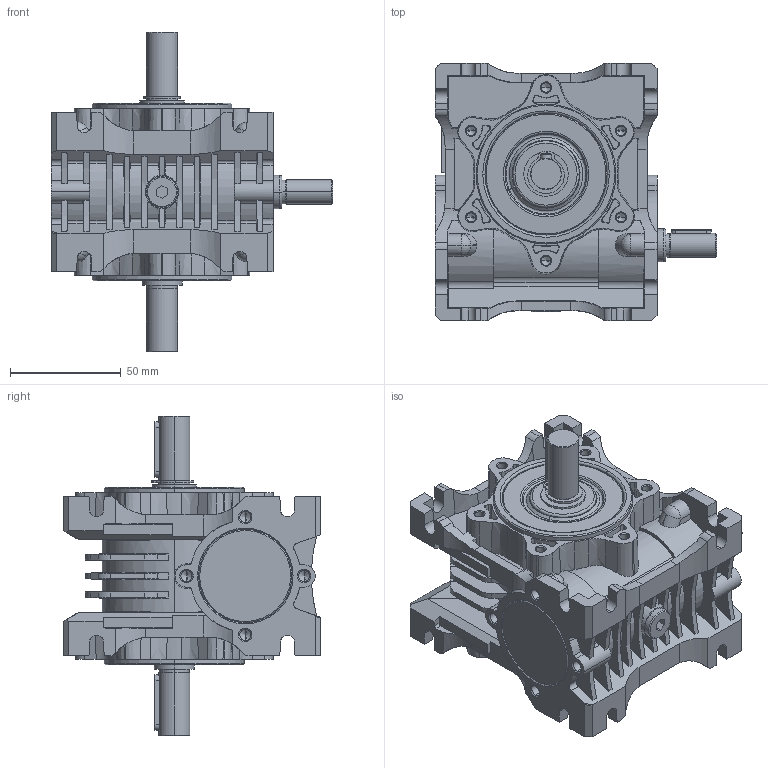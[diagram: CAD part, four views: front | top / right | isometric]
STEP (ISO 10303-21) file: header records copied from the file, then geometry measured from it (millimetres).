
FILE_DESCRIPTION (( 'STEP AP203' ), '1' );
FILE_NAME ('MR-32_WBS-WD-3D.STEP', '2022-01-26T08:09:40', ( '' ), ( '' ), 'SwSTEP 2.0', 'SolidWorks 2022', '' );
FILE_SCHEMA (( 'CONFIG_CONTROL_DESIGN' ));
Length unit declared in the file: millimetre
Products named in the file (1): MR-32_WBS-WD-3D
Bounding box: 127 x 116 x 144 mm (x, y, z)
Volume: 539715.2 mm3; surface area: 102744.2 mm2
Topology: 1 solids, 5 shells, 1323 faces, 3597 edges, 2306 vertices
Faces by surface type: plane 512, cone 399, cylinder 323, bspline 49, torus 34, sphere 6
Entity records: 43848 total; most frequent: CARTESIAN_POINT 11670, ORIENTED_EDGE 7106, DIRECTION 6400, EDGE_CURVE 3553, VERTEX_POINT 2306, AXIS2_PLACEMENT_3D 2288, LINE 1824, VECTOR 1824
